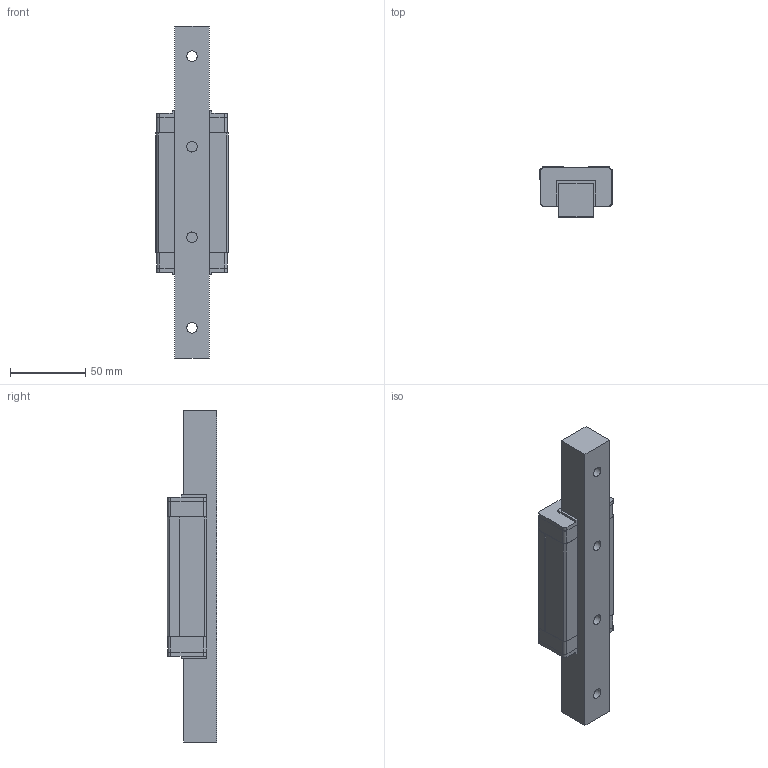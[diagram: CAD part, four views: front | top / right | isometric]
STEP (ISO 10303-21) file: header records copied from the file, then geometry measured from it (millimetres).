
FILE_DESCRIPTION((''),'2;1');
FILE_NAME('E:\PDF郪磁芞\DFS-B\DFS25BL.STP','2018-01-31T12:48:13',(''),(''),'STEP Write','Mastercam V9 ... CNC Software, Inc.','');
FILE_SCHEMA(('CONFIG_CONTROL_DESIGN'));
Length unit declared in the file: millimetre
Bounding box: 48 x 33 x 220 mm (x, y, z)
Volume: 197560.7 mm3; surface area: 50672.7 mm2
Topology: 6 solids, 6 shells, 110 faces, 501 edges, 630 vertices
Faces by surface type: plane 82, cylinder 28
Full cylindrical faces by diameter (mm): 5.5 x4, 7 x4, 11 x4
Entity records: 4694 total; most frequent: CARTESIAN_POINT 1040, DIRECTION 807, ORIENTED_EDGE 516, VECTOR 367, LINE 367, EDGE_CURVE 258, AXIS2_PLACEMENT_3D 220, TRIMMED_CURVE 219
